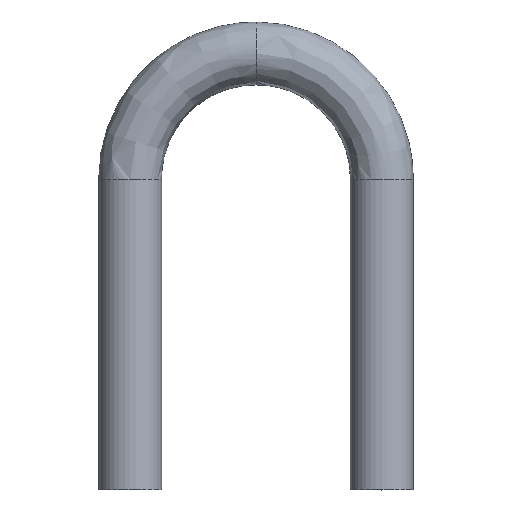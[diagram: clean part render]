
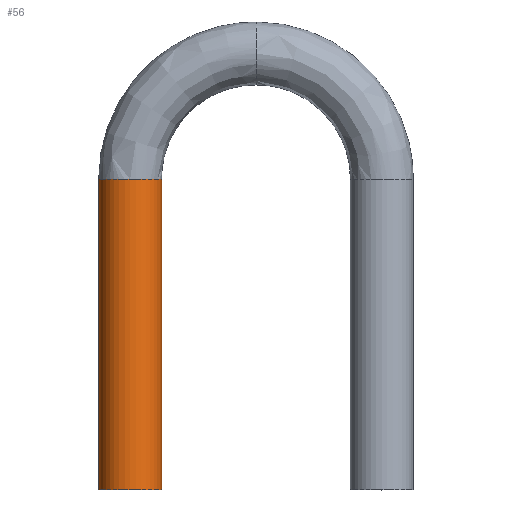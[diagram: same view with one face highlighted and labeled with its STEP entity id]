
A CAD part, top view. The second image highlights one B-rep face of the part: STEP entity #56.
In plain terms, the highlighted cylindrical face has radius 4.763 mm (diameter 9.525 mm), a partial arc.
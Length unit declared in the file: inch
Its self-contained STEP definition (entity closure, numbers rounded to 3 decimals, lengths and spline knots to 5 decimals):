
#56=ADVANCED_FACE('',(#109),#110,.T.);
#109=FACE_OUTER_BOUND('',#293,.T.);
#110=CYLINDRICAL_SURFACE('',#294,0.1875);
#293=EDGE_LOOP('',(#488,#489,#490,#491));
#294=AXIS2_PLACEMENT_3D('',#492,#493,#494);
#488=ORIENTED_EDGE('',*,*,#551,.F.);
#489=ORIENTED_EDGE('',*,*,#552,.T.);
#490=ORIENTED_EDGE('',*,*,#553,.F.);
#491=ORIENTED_EDGE('',*,*,#544,.T.);
#492=CARTESIAN_POINT('',(0.,0.,0.0));
#493=DIRECTION('',(-0.0,-1.0,-0.0));
#494=DIRECTION('',(-1.0,0.0,0.0));
#544=EDGE_CURVE('',#575,#579,#581,.T.);
#551=EDGE_CURVE('',#588,#579,#589,.T.);
#552=EDGE_CURVE('',#588,#590,#591,.T.);
#553=EDGE_CURVE('',#575,#590,#592,.T.);
#575=VERTEX_POINT('',#616);
#579=VERTEX_POINT('',#625);
#581=CIRCLE('',#632,0.1875);
#588=VERTEX_POINT('',#649);
#589=LINE('',#650,#651);
#590=VERTEX_POINT('',#652);
#591=CIRCLE('',#653,0.1875);
#592=LINE('',#654,#655);
#616=CARTESIAN_POINT('',(0.1875,1.85,0.));
#625=CARTESIAN_POINT('',(-0.1875,1.85,0.0));
#632=AXIS2_PLACEMENT_3D('',#677,#678,#679);
#649=CARTESIAN_POINT('',(-0.1875,0.,0.0));
#650=CARTESIAN_POINT('',(-0.1875,0.,0.));
#651=VECTOR('',#683,1.0);
#652=CARTESIAN_POINT('',(0.1875,0.,0.));
#653=AXIS2_PLACEMENT_3D('',#684,#685,#686);
#654=CARTESIAN_POINT('',(0.1875,0.,0.));
#655=VECTOR('',#687,1.0);
#677=CARTESIAN_POINT('',(0.,1.85,0.0));
#678=DIRECTION('',(-0.0,-1.0,-0.0));
#679=DIRECTION('',(-1.0,0.0,0.0));
#683=DIRECTION('',(0.0,1.0,0.0));
#684=CARTESIAN_POINT('',(0.,0.,0.0));
#685=DIRECTION('',(0.0,1.0,0.0));
#686=DIRECTION('',(-1.0,0.0,0.0));
#687=DIRECTION('',(-0.0,-1.0,-0.0));
